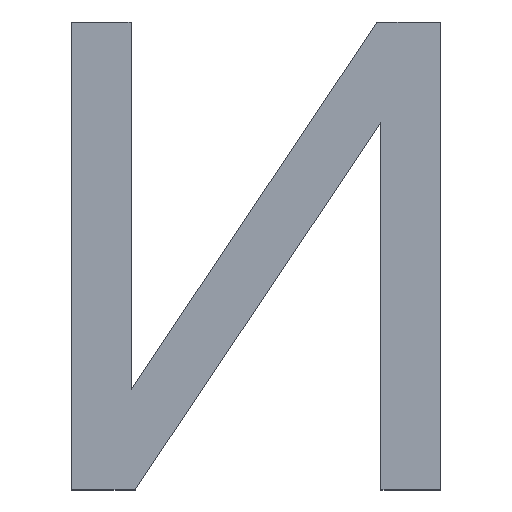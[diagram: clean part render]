
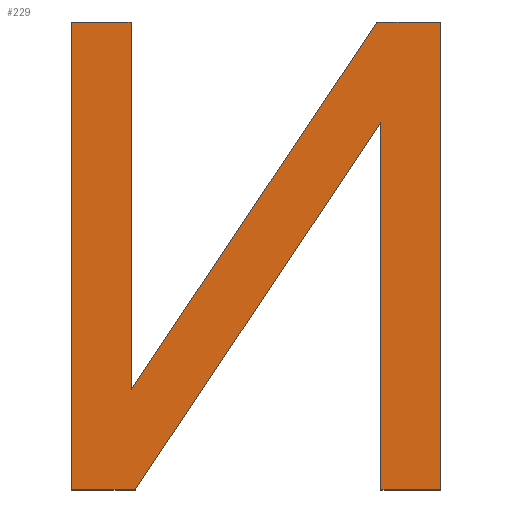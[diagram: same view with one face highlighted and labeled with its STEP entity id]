
A CAD part, top view. The second image highlights one B-rep face of the part: STEP entity #229.
In plain terms, the highlighted planar face has unit normal (0, 0, 1).
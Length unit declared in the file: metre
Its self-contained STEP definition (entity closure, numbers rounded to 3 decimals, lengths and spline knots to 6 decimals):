
#62=ORIENTED_EDGE('',*,*,#100,.T.);
#63=ORIENTED_EDGE('',*,*,#72,.T.);
#64=ORIENTED_EDGE('',*,*,#76,.T.);
#65=ORIENTED_EDGE('',*,*,#79,.T.);
#66=ORIENTED_EDGE('',*,*,#82,.T.);
#67=ORIENTED_EDGE('',*,*,#85,.T.);
#68=ORIENTED_EDGE('',*,*,#88,.T.);
#69=ORIENTED_EDGE('',*,*,#91,.T.);
#70=ORIENTED_EDGE('',*,*,#94,.T.);
#71=ORIENTED_EDGE('',*,*,#97,.T.);
#72=EDGE_CURVE('',#102,#103,#122,.T.);
#76=EDGE_CURVE('',#103,#106,#126,.F.);
#79=EDGE_CURVE('',#106,#108,#129,.T.);
#82=EDGE_CURVE('',#108,#110,#132,.T.);
#85=EDGE_CURVE('',#110,#112,#135,.F.);
#88=EDGE_CURVE('',#112,#114,#138,.F.);
#91=EDGE_CURVE('',#114,#116,#141,.T.);
#94=EDGE_CURVE('',#116,#118,#144,.T.);
#97=EDGE_CURVE('',#118,#120,#147,.F.);
#100=EDGE_CURVE('',#120,#102,#150,.T.);
#102=VERTEX_POINT('',#306);
#103=VERTEX_POINT('',#307);
#106=VERTEX_POINT('',#315);
#108=VERTEX_POINT('',#321);
#110=VERTEX_POINT('',#327);
#112=VERTEX_POINT('',#333);
#114=VERTEX_POINT('',#339);
#116=VERTEX_POINT('',#345);
#118=VERTEX_POINT('',#351);
#120=VERTEX_POINT('',#357);
#122=LINE('',#305,#152);
#126=LINE('',#314,#156);
#129=LINE('',#320,#159);
#132=LINE('',#326,#162);
#135=LINE('',#332,#165);
#138=LINE('',#338,#168);
#141=LINE('',#344,#171);
#144=LINE('',#350,#174);
#147=LINE('',#356,#177);
#150=LINE('',#362,#180);
#152=VECTOR('',#251,1.);
#156=VECTOR('',#257,1.);
#159=VECTOR('',#262,1.);
#162=VECTOR('',#267,1.);
#165=VECTOR('',#272,1.);
#168=VECTOR('',#277,1.);
#171=VECTOR('',#282,1.);
#174=VECTOR('',#287,1.);
#177=VECTOR('',#292,1.);
#180=VECTOR('',#297,1.);
#193=EDGE_LOOP('',(#62,#63,#64,#65,#66,#67,#68,#69,#70,#71));
#205=FACE_BOUND('',#193,.T.);
#217=PLANE('',#246);
#229=ADVANCED_FACE('',(#205),#217,.F.);
#246=AXIS2_PLACEMENT_3D('',#365,#301,#302);
#251=DIRECTION('',(0.,-1.,0.));
#257=DIRECTION('',(-1.,0.,0.));
#262=DIRECTION('',(0.556,0.831,0.));
#267=DIRECTION('',(0.,-1.,0.));
#272=DIRECTION('',(-1.,0.,0.));
#277=DIRECTION('',(0.,-1.,0.));
#282=DIRECTION('',(-1.,0.,0.));
#287=DIRECTION('',(-0.556,-0.831,0.));
#292=DIRECTION('',(0.,-1.,0.));
#297=DIRECTION('',(-1.,0.,0.));
#301=DIRECTION('',(0.,0.,-1.));
#302=DIRECTION('',(0.,-1.,0.));
#305=CARTESIAN_POINT('',(-0.042586,-0.00381,-0.03));
#306=CARTESIAN_POINT('',(-0.042586,-0.003401,-0.03));
#307=CARTESIAN_POINT('',(-0.042586,-0.004218,-0.03));
#314=CARTESIAN_POINT('',(-0.042293,-0.004218,-0.03));
#315=CARTESIAN_POINT('',(-0.042475,-0.004218,-0.03));
#320=CARTESIAN_POINT('',(-0.042475,-0.004218,-0.03));
#321=CARTESIAN_POINT('',(-0.042046,-0.003577,-0.03));
#326=CARTESIAN_POINT('',(-0.042046,-0.00381,-0.03));
#327=CARTESIAN_POINT('',(-0.042046,-0.004218,-0.03));
#332=CARTESIAN_POINT('',(-0.042293,-0.004218,-0.03));
#333=CARTESIAN_POINT('',(-0.041942,-0.004218,-0.03));
#338=CARTESIAN_POINT('',(-0.041942,-0.00381,-0.03));
#339=CARTESIAN_POINT('',(-0.041942,-0.003401,-0.03));
#344=CARTESIAN_POINT('',(-0.042293,-0.003401,-0.03));
#345=CARTESIAN_POINT('',(-0.042053,-0.003401,-0.03));
#350=CARTESIAN_POINT('',(-0.042053,-0.003401,-0.03));
#351=CARTESIAN_POINT('',(-0.042482,-0.004044,-0.03));
#356=CARTESIAN_POINT('',(-0.042482,-0.00381,-0.03));
#357=CARTESIAN_POINT('',(-0.042482,-0.003401,-0.03));
#362=CARTESIAN_POINT('',(-0.042293,-0.003401,-0.03));
#365=CARTESIAN_POINT('',(-0.042293,-0.00381,-0.03));
